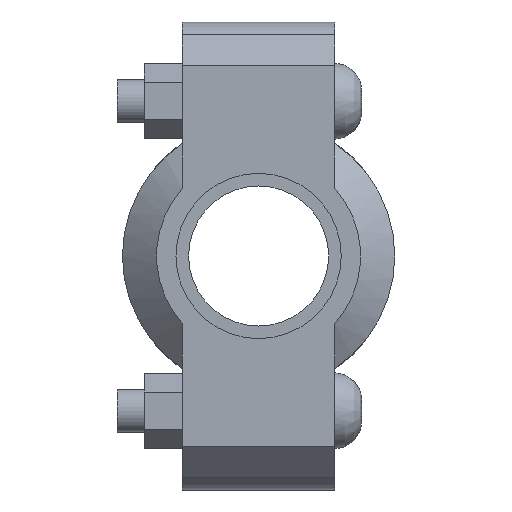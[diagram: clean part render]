
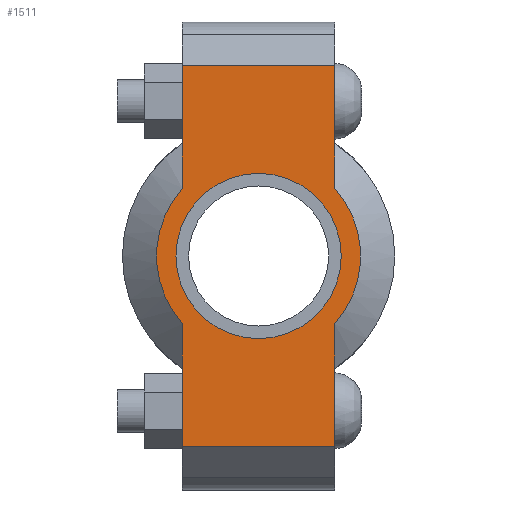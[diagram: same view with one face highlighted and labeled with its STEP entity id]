
A CAD part, left-side view. The second image highlights one B-rep face of the part: STEP entity #1511.
In plain terms, the highlighted planar face has unit normal (-1, 0, 0) as drawn and (0, 0, 1) by its records, which use the part's own axes.
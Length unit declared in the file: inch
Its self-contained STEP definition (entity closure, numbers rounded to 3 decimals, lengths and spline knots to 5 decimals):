
#122=LINE('',#2595,#217);
#137=LINE('',#2654,#232);
#145=LINE('',#2684,#240);
#147=LINE('',#2687,#242);
#148=LINE('',#2692,#243);
#149=LINE('',#2693,#244);
#217=VECTOR('',#2101,0.3937);
#232=VECTOR('',#2136,0.3937);
#240=VECTOR('',#2156,0.3937);
#242=VECTOR('',#2160,0.3937);
#243=VECTOR('',#2165,0.3937);
#244=VECTOR('',#2166,0.3937);
#304=FACE_BOUND('',#463,.T.);
#364=FACE_OUTER_BOUND('',#462,.T.);
#462=EDGE_LOOP('',(#1206,#1207,#1208,#1209,#1210,#1211,#1212,#1213));
#463=EDGE_LOOP('',(#1214));
#568=CIRCLE('',#1774,1.172);
#569=CIRCLE('',#1775,1.172);
#570=CIRCLE('',#1776,0.95);
#677=VERTEX_POINT('',#2592);
#678=VERTEX_POINT('',#2594);
#699=VERTEX_POINT('',#2649);
#700=VERTEX_POINT('',#2653);
#709=VERTEX_POINT('',#2679);
#710=VERTEX_POINT('',#2683);
#711=VERTEX_POINT('',#2689);
#712=VERTEX_POINT('',#2691);
#713=VERTEX_POINT('',#2695);
#847=EDGE_CURVE('',#678,#677,#122,.T.);
#872=EDGE_CURVE('',#700,#699,#137,.T.);
#885=EDGE_CURVE('',#710,#709,#145,.T.);
#887=EDGE_CURVE('',#710,#677,#147,.T.);
#888=EDGE_CURVE('',#709,#711,#568,.T.);
#889=EDGE_CURVE('',#711,#712,#148,.T.);
#890=EDGE_CURVE('',#700,#712,#149,.T.);
#891=EDGE_CURVE('',#699,#678,#569,.T.);
#892=EDGE_CURVE('',#713,#713,#570,.T.);
#1206=ORIENTED_EDGE('',*,*,#887,.F.);
#1207=ORIENTED_EDGE('',*,*,#885,.T.);
#1208=ORIENTED_EDGE('',*,*,#888,.T.);
#1209=ORIENTED_EDGE('',*,*,#889,.T.);
#1210=ORIENTED_EDGE('',*,*,#890,.F.);
#1211=ORIENTED_EDGE('',*,*,#872,.T.);
#1212=ORIENTED_EDGE('',*,*,#891,.T.);
#1213=ORIENTED_EDGE('',*,*,#847,.T.);
#1214=ORIENTED_EDGE('',*,*,#892,.T.);
#1363=PLANE('',#1773);
#1511=ADVANCED_FACE('',(#364,#304),#1363,.T.);
#1773=AXIS2_PLACEMENT_3D('',#2688,#2161,#2162);
#1774=AXIS2_PLACEMENT_3D('',#2690,#2163,#2164);
#1775=AXIS2_PLACEMENT_3D('',#2694,#2167,#2168);
#1776=AXIS2_PLACEMENT_3D('',#2696,#2169,#2170);
#2101=DIRECTION('',(1.,0.,0.));
#2136=DIRECTION('',(1.,0.,0.));
#2156=DIRECTION('',(-1.,0.,0.));
#2160=DIRECTION('',(0.,-1.,0.));
#2161=DIRECTION('center_axis',(0.,0.,1.));
#2162=DIRECTION('ref_axis',(-1.,0.,0.));
#2163=DIRECTION('center_axis',(0.,0.,1.));
#2164=DIRECTION('ref_axis',(1.,0.,0.));
#2165=DIRECTION('',(-1.,0.,0.));
#2166=DIRECTION('',(0.,1.,0.));
#2167=DIRECTION('center_axis',(0.,0.,1.));
#2168=DIRECTION('ref_axis',(1.,0.,0.));
#2169=DIRECTION('center_axis',(0.,0.,-1.));
#2170=DIRECTION('ref_axis',(1.,0.,0.));
#2592=CARTESIAN_POINT('',(2.19,-0.875,0.94));
#2594=CARTESIAN_POINT('',(0.77972,-0.875,0.94));
#2595=CARTESIAN_POINT('',(-2.69,-0.875,0.94));
#2649=CARTESIAN_POINT('',(-0.77972,-0.875,0.94));
#2653=CARTESIAN_POINT('',(-2.19,-0.875,0.94));
#2654=CARTESIAN_POINT('',(-2.69,-0.875,0.94));
#2679=CARTESIAN_POINT('',(0.77972,0.875,0.94));
#2683=CARTESIAN_POINT('',(2.19,0.875,0.94));
#2684=CARTESIAN_POINT('',(2.69,0.875,0.94));
#2687=CARTESIAN_POINT('',(2.19,-0.4375,0.94));
#2688=CARTESIAN_POINT('Origin',(0.,0.,
0.94));
#2689=CARTESIAN_POINT('',(-0.77972,0.875,0.94));
#2690=CARTESIAN_POINT('Origin',(0.,0.,0.94));
#2691=CARTESIAN_POINT('',(-2.19,0.875,0.94));
#2692=CARTESIAN_POINT('',(2.69,0.875,0.94));
#2693=CARTESIAN_POINT('',(-2.19,0.4375,0.94));
#2694=CARTESIAN_POINT('Origin',(0.,0.,0.94));
#2695=CARTESIAN_POINT('',(-0.95,0.,0.94));
#2696=CARTESIAN_POINT('Origin',(0.,0.,0.94));
